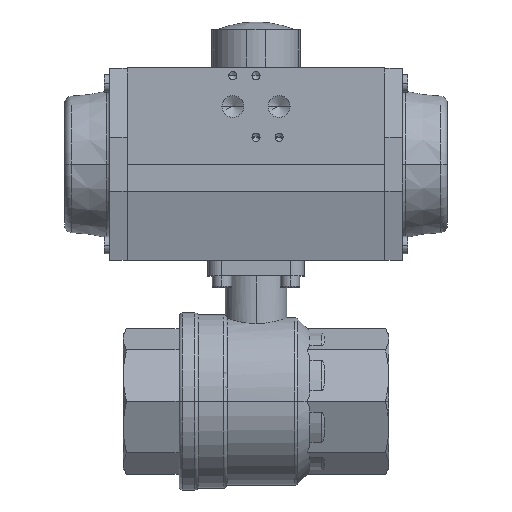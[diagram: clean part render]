
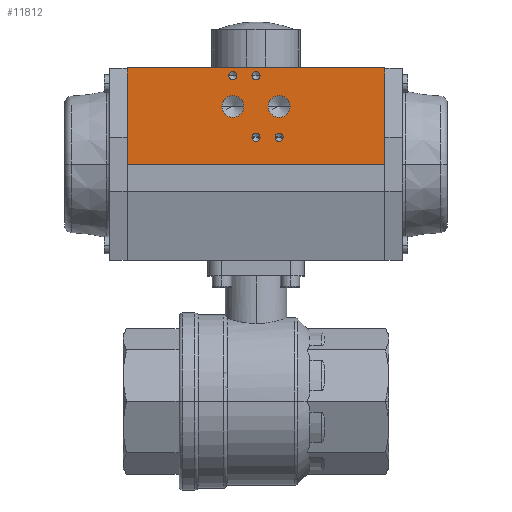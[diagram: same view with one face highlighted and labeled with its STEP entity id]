
A CAD part, top view. The second image highlights one B-rep face of the part: STEP entity #11812.
In plain terms, the highlighted planar face has unit normal (0, 0, 1) as drawn and (1, 0, 0) by its records, which use the part's own axes.
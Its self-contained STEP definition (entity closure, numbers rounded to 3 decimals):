
#195 = CARTESIAN_POINT ( 'NONE',  ( 49.5, 14., -12. ) ) ;
#196 = DIRECTION ( 'NONE',  ( 1., 0., 0. ) ) ;
#197 = DIRECTION ( 'NONE',  ( 0., 0., -1. ) ) ;
#200 = CARTESIAN_POINT ( 'NONE',  ( 49.5, 14., 0. ) ) ;
#201 = DIRECTION ( 'NONE',  ( 1., 0., 0. ) ) ;
#202 = DIRECTION ( 'NONE',  ( 0., 0., -1. ) ) ;
#226 = CARTESIAN_POINT ( 'NONE',  ( 49.5, 46., 0. ) ) ;
#227 = DIRECTION ( 'NONE',  ( 1., 0., 0. ) ) ;
#228 = DIRECTION ( 'NONE',  ( 0., 0., -1. ) ) ;
#256 = CARTESIAN_POINT ( 'NONE',  ( 49.5, 30., -12. ) ) ;
#257 = DIRECTION ( 'NONE',  ( 1., 0., 0. ) ) ;
#258 = DIRECTION ( 'NONE',  ( 0., 0., -1. ) ) ;
#2047 = CARTESIAN_POINT ( 'NONE',  ( 49.5, 30., 12. ) ) ;
#2048 = DIRECTION ( 'NONE',  ( 1., 0., 0. ) ) ;
#2049 = DIRECTION ( 'NONE',  ( 0., 0., -1. ) ) ;
#3797 = CARTESIAN_POINT ( 'NONE',  ( 49.5, 0., -67. ) ) ;
#3801 = FACE_BOUND ( 'NONE', #10217, .T. ) ;
#3804 = FACE_BOUND ( 'NONE', #10224, .T. ) ;
#3805 = FACE_BOUND ( 'NONE', #10223, .T. ) ;
#3806 = FACE_BOUND ( 'NONE', #10218, .T. ) ;
#3807 = FACE_OUTER_BOUND ( 'NONE', #10226, .T. ) ;
#3808 = FACE_BOUND ( 'NONE', #10225, .T. ) ;
#3809 = PLANE ( 'NONE',  #6981 ) ;
#3810 = FACE_BOUND ( 'NONE', #10222, .T. ) ;
#3813 = DIRECTION ( 'NONE',  ( 1., 0., 0. ) ) ;
#3814 = DIRECTION ( 'NONE',  ( 0., 1., 0. ) ) ;
#5366 = VECTOR ( 'NONE', #7734, 1000. ) ;
#5367 = CIRCLE ( 'NONE', #5375, 2.1 ) ;
#5368 = CIRCLE ( 'NONE', #5380, 2.1 ) ;
#5374 = CIRCLE ( 'NONE', #5378, 2.1 ) ;
#5375 = AXIS2_PLACEMENT_3D ( 'NONE', #7738, #7739, #7740 ) ;
#5376 = CIRCLE ( 'NONE', #5387, 2.1 ) ;
#5378 = AXIS2_PLACEMENT_3D ( 'NONE', #7741, #7742, #7743 ) ;
#5379 = CIRCLE ( 'NONE', #5393, 5.723 ) ;
#5380 = AXIS2_PLACEMENT_3D ( 'NONE', #7744, #7745, #7746 ) ;
#5386 = CIRCLE ( 'NONE', #5395, 5.722 ) ;
#5387 = AXIS2_PLACEMENT_3D ( 'NONE', #7747, #7748, #7749 ) ;
#5389 = VECTOR ( 'NONE', #7759, 1000. ) ;
#5393 = AXIS2_PLACEMENT_3D ( 'NONE', #7750, #7751, #7752 ) ;
#5394 = VECTOR ( 'NONE', #7762, 1000. ) ;
#5395 = AXIS2_PLACEMENT_3D ( 'NONE', #7755, #7756, #7757 ) ;
#5400 = VECTOR ( 'NONE', #7764, 1000. ) ;
#5407 = AXIS2_PLACEMENT_3D ( 'NONE', #8497, #8498, #8499 ) ;
#5411 = CIRCLE ( 'NONE', #5407, 2.1 ) ;
#5616 = EDGE_CURVE ( 'NONE', #10606, #10605, #5411, .T. ) ;
#5720 = EDGE_CURVE ( 'NONE', #10479, #10478, #7731, .T. ) ;
#5722 = EDGE_CURVE ( 'NONE', #10605, #10606, #5367, .T. ) ;
#5723 = EDGE_CURVE ( 'NONE', #10598, #10599, #5374, .T. ) ;
#5724 = EDGE_CURVE ( 'NONE', #10593, #10594, #5368, .T. ) ;
#5725 = EDGE_CURVE ( 'NONE', #10587, #10588, #5376, .T. ) ;
#5726 = EDGE_CURVE ( 'NONE', #10580, #10581, #5379, .T. ) ;
#5727 = EDGE_CURVE ( 'NONE', #10575, #10576, #5386, .T. ) ;
#5728 = EDGE_CURVE ( 'NONE', #10476, #10478, #7754, .T. ) ;
#5729 = EDGE_CURVE ( 'NONE', #10484, #10476, #7753, .T. ) ;
#5730 = EDGE_CURVE ( 'NONE', #10484, #10479, #7732, .T. ) ;
#6605 = CIRCLE ( 'NONE', #7522, 5.723 ) ;
#6675 = AXIS2_PLACEMENT_3D ( 'NONE', #226, #227, #228 ) ;
#6722 = CIRCLE ( 'NONE', #6675, 2.1 ) ;
#6946 = AXIS2_PLACEMENT_3D ( 'NONE', #2047, #2048, #2049 ) ;
#6948 = CIRCLE ( 'NONE', #6946, 5.722 ) ;
#6981 = AXIS2_PLACEMENT_3D ( 'NONE', #3797, #3813, #3814 ) ;
#7508 = CIRCLE ( 'NONE', #7557, 2.1 ) ;
#7522 = AXIS2_PLACEMENT_3D ( 'NONE', #256, #257, #258 ) ;
#7534 = CIRCLE ( 'NONE', #7546, 2.1 ) ;
#7546 = AXIS2_PLACEMENT_3D ( 'NONE', #195, #196, #197 ) ;
#7557 = AXIS2_PLACEMENT_3D ( 'NONE', #200, #201, #202 ) ;
#7731 = LINE ( 'NONE', #7733, #5366 ) ;
#7732 = LINE ( 'NONE', #7763, #5400 ) ;
#7733 = CARTESIAN_POINT ( 'NONE',  ( 49.5, 50., -67. ) ) ;
#7734 = DIRECTION ( 'NONE',  ( 0., 0., 1. ) ) ;
#7737 = CARTESIAN_POINT ( 'NONE',  ( 49.5, 0., 67. ) ) ;
#7738 = CARTESIAN_POINT ( 'NONE',  ( 49.5, 46., 12. ) ) ;
#7739 = DIRECTION ( 'NONE',  ( 1., 0., 0. ) ) ;
#7740 = DIRECTION ( 'NONE',  ( 0., 0., -1. ) ) ;
#7741 = CARTESIAN_POINT ( 'NONE',  ( 49.5, 14., -12. ) ) ;
#7742 = DIRECTION ( 'NONE',  ( 1., 0., 0. ) ) ;
#7743 = DIRECTION ( 'NONE',  ( 0., 0., -1. ) ) ;
#7744 = CARTESIAN_POINT ( 'NONE',  ( 49.5, 14., 0. ) ) ;
#7745 = DIRECTION ( 'NONE',  ( 1., 0., 0. ) ) ;
#7746 = DIRECTION ( 'NONE',  ( 0., 0., -1. ) ) ;
#7747 = CARTESIAN_POINT ( 'NONE',  ( 49.5, 46., 0. ) ) ;
#7748 = DIRECTION ( 'NONE',  ( 1., 0., 0. ) ) ;
#7749 = DIRECTION ( 'NONE',  ( 0., 0., -1. ) ) ;
#7750 = CARTESIAN_POINT ( 'NONE',  ( 49.5, 30., -12. ) ) ;
#7751 = DIRECTION ( 'NONE',  ( 1., 0., 0. ) ) ;
#7752 = DIRECTION ( 'NONE',  ( 0., 0., -1. ) ) ;
#7753 = LINE ( 'NONE', #7760, #5394 ) ;
#7754 = LINE ( 'NONE', #7737, #5389 ) ;
#7755 = CARTESIAN_POINT ( 'NONE',  ( 49.5, 30., 12. ) ) ;
#7756 = DIRECTION ( 'NONE',  ( 1., 0., 0. ) ) ;
#7757 = DIRECTION ( 'NONE',  ( 0., 0., -1. ) ) ;
#7759 = DIRECTION ( 'NONE',  ( 0., 1., 0. ) ) ;
#7760 = CARTESIAN_POINT ( 'NONE',  ( 49.5, 0., -67. ) ) ;
#7762 = DIRECTION ( 'NONE',  ( 0., 0., 1. ) ) ;
#7763 = CARTESIAN_POINT ( 'NONE',  ( 49.5, 0., -67. ) ) ;
#7764 = DIRECTION ( 'NONE',  ( 0., 1., 0. ) ) ;
#8497 = CARTESIAN_POINT ( 'NONE',  ( 49.5, 46., 12. ) ) ;
#8498 = DIRECTION ( 'NONE',  ( 1., 0., 0. ) ) ;
#8499 = DIRECTION ( 'NONE',  ( 0., 0., -1. ) ) ;
#9790 = ORIENTED_EDGE ( 'NONE', *, *, #5730, .T. ) ;
#9792 = ORIENTED_EDGE ( 'NONE', *, *, #5726, .F. ) ;
#9793 = ORIENTED_EDGE ( 'NONE', *, *, #11862, .F. ) ;
#9794 = ORIENTED_EDGE ( 'NONE', *, *, #11533, .F. ) ;
#9795 = ORIENTED_EDGE ( 'NONE', *, *, #5728, .F. ) ;
#9796 = ORIENTED_EDGE ( 'NONE', *, *, #5729, .F. ) ;
#9797 = ORIENTED_EDGE ( 'NONE', *, *, #5720, .T. ) ;
#9798 = ORIENTED_EDGE ( 'NONE', *, *, #5727, .F. ) ;
#9799 = ORIENTED_EDGE ( 'NONE', *, *, #11543, .F. ) ;
#9801 = ORIENTED_EDGE ( 'NONE', *, *, #11524, .F. ) ;
#9802 = ORIENTED_EDGE ( 'NONE', *, *, #5725, .F. ) ;
#9803 = ORIENTED_EDGE ( 'NONE', *, *, #11523, .F. ) ;
#9804 = ORIENTED_EDGE ( 'NONE', *, *, #5724, .F. ) ;
#9805 = ORIENTED_EDGE ( 'NONE', *, *, #5616, .F. ) ;
#9806 = ORIENTED_EDGE ( 'NONE', *, *, #5723, .F. ) ;
#9808 = ORIENTED_EDGE ( 'NONE', *, *, #5722, .F. ) ;
#10217 = EDGE_LOOP ( 'NONE', ( #9806, #9803 ) ) ;
#10218 = EDGE_LOOP ( 'NONE', ( #9798, #9793 ) ) ;
#10222 = EDGE_LOOP ( 'NONE', ( #9802, #9794 ) ) ;
#10223 = EDGE_LOOP ( 'NONE', ( #9808, #9805 ) ) ;
#10224 = EDGE_LOOP ( 'NONE', ( #9792, #9799 ) ) ;
#10225 = EDGE_LOOP ( 'NONE', ( #9804, #9801 ) ) ;
#10226 = EDGE_LOOP ( 'NONE', ( #9797, #9795, #9796, #9790 ) ) ;
#10476 = VERTEX_POINT ( 'NONE', #12434 ) ;
#10478 = VERTEX_POINT ( 'NONE', #12436 ) ;
#10479 = VERTEX_POINT ( 'NONE', #12437 ) ;
#10484 = VERTEX_POINT ( 'NONE', #12442 ) ;
#10575 = VERTEX_POINT ( 'NONE', #12550 ) ;
#10576 = VERTEX_POINT ( 'NONE', #12551 ) ;
#10580 = VERTEX_POINT ( 'NONE', #12555 ) ;
#10581 = VERTEX_POINT ( 'NONE', #12556 ) ;
#10587 = VERTEX_POINT ( 'NONE', #12579 ) ;
#10588 = VERTEX_POINT ( 'NONE', #12565 ) ;
#10593 = VERTEX_POINT ( 'NONE', #12592 ) ;
#10594 = VERTEX_POINT ( 'NONE', #12593 ) ;
#10598 = VERTEX_POINT ( 'NONE', #12596 ) ;
#10599 = VERTEX_POINT ( 'NONE', #12597 ) ;
#10605 = VERTEX_POINT ( 'NONE', #12611 ) ;
#10606 = VERTEX_POINT ( 'NONE', #12612 ) ;
#11523 = EDGE_CURVE ( 'NONE', #10599, #10598, #7534, .T. ) ;
#11524 = EDGE_CURVE ( 'NONE', #10594, #10593, #7508, .T. ) ;
#11533 = EDGE_CURVE ( 'NONE', #10588, #10587, #6722, .T. ) ;
#11543 = EDGE_CURVE ( 'NONE', #10581, #10580, #6605, .T. ) ;
#11812 = ADVANCED_FACE ( 'NONE', ( #3805, #3801, #3808, #3810, #3804, #3806, #3807 ), #3809, .T. ) ;
#11862 = EDGE_CURVE ( 'NONE', #10576, #10575, #6948, .T. ) ;
#12434 = CARTESIAN_POINT ( 'NONE',  ( 49.5, 0., 67. ) ) ;
#12436 = CARTESIAN_POINT ( 'NONE',  ( 49.5, 50., 67. ) ) ;
#12437 = CARTESIAN_POINT ( 'NONE',  ( 49.5, 50., -67. ) ) ;
#12442 = CARTESIAN_POINT ( 'NONE',  ( 49.5, 0., -67. ) ) ;
#12550 = CARTESIAN_POINT ( 'NONE',  ( 49.5, 30., 6.277 ) ) ;
#12551 = CARTESIAN_POINT ( 'NONE',  ( 49.5, 30., 17.722 ) ) ;
#12555 = CARTESIAN_POINT ( 'NONE',  ( 49.5, 30., -17.723 ) ) ;
#12556 = CARTESIAN_POINT ( 'NONE',  ( 49.5, 30., -6.277 ) ) ;
#12565 = CARTESIAN_POINT ( 'NONE',  ( 49.5, 46., 2.1 ) ) ;
#12579 = CARTESIAN_POINT ( 'NONE',  ( 49.5, 46., -2.1 ) ) ;
#12592 = CARTESIAN_POINT ( 'NONE',  ( 49.5, 14., -2.1 ) ) ;
#12593 = CARTESIAN_POINT ( 'NONE',  ( 49.5, 14., 2.1 ) ) ;
#12596 = CARTESIAN_POINT ( 'NONE',  ( 49.5, 14., -14.1 ) ) ;
#12597 = CARTESIAN_POINT ( 'NONE',  ( 49.5, 14., -9.9 ) ) ;
#12611 = CARTESIAN_POINT ( 'NONE',  ( 49.5, 46., 9.9 ) ) ;
#12612 = CARTESIAN_POINT ( 'NONE',  ( 49.5, 46., 14.1 ) ) ;
